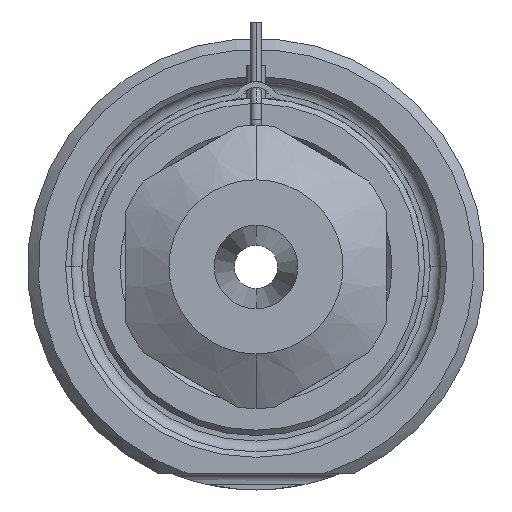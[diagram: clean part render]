
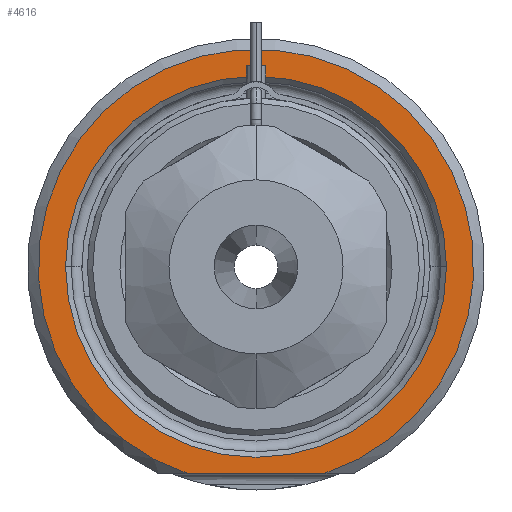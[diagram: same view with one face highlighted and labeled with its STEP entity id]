
A CAD part, front view. The second image highlights one B-rep face of the part: STEP entity #4616.
In plain terms, the highlighted planar face has unit normal (0, -1, 0).
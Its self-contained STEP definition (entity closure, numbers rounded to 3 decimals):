
#1586=CARTESIAN_POINT('',(0.,0.,0.));
#1587=DIRECTION('',(0.,-1.,0.));
#1588=DIRECTION('',(0.312,0.,-0.95));
#1589=AXIS2_PLACEMENT_3D('',#1586,#1587,#1588);
#1610=DIRECTION('',(1.,0.,0.));
#1611=VECTOR('',#1610,12.49);
#1612=CARTESIAN_POINT('',(-6.245,0.,-19.));
#1613=LINE('',#1612,#1611);
#1614=CARTESIAN_POINT('',(0.,0.,0.));
#1615=DIRECTION('',(0.,1.,0.));
#1616=DIRECTION('',(-1.,0.,0.));
#1617=AXIS2_PLACEMENT_3D('',#1614,#1615,#1616);
#1619=CARTESIAN_POINT('',(0.,0.,0.));
#1620=DIRECTION('',(0.,1.,0.));
#1621=DIRECTION('',(1.,0.,0.));
#1622=AXIS2_PLACEMENT_3D('',#1619,#1620,#1621);
#2498=CARTESIAN_POINT('',(-17.5,0.,0.));
#2499=CARTESIAN_POINT('',(17.5,0.,0.));
#2500=VERTEX_POINT('',#2498);
#2501=VERTEX_POINT('',#2499);
#2542=CARTESIAN_POINT('',(-6.245,0.,-19.));
#2543=CARTESIAN_POINT('',(6.245,0.,-19.));
#2544=VERTEX_POINT('',#2542);
#2545=VERTEX_POINT('',#2543);
#4601=CARTESIAN_POINT('',(0.,0.,0.));
#4602=DIRECTION('',(0.,-1.,0.));
#4603=DIRECTION('',(1.,0.,0.));
#4604=AXIS2_PLACEMENT_3D('',#4601,#4602,#4603);
#4605=PLANE('',#4604);
#4606=ORIENTED_EDGE('',*,*,#4533,.F.);
#4607=ORIENTED_EDGE('',*,*,#4593,.F.);
#4608=EDGE_LOOP('',(#4606,#4607));
#4609=FACE_OUTER_BOUND('',#4608,.F.);
#4611=ORIENTED_EDGE('',*,*,#4610,.F.);
#4613=ORIENTED_EDGE('',*,*,#4612,.F.);
#4614=EDGE_LOOP('',(#4611,#4613));
#4615=FACE_BOUND('',#4614,.F.);
#4616=ADVANCED_FACE('',(#4609,#4615),#4605,.T.);
#1590=CIRCLE('',#1589,20.);
#1618=CIRCLE('',#1617,17.5);
#1623=CIRCLE('',#1622,17.5);
#4533=EDGE_CURVE('',#2544,#2545,#1613,.T.);
#4593=EDGE_CURVE('',#2545,#2544,#1590,.T.);
#4610=EDGE_CURVE('',#2500,#2501,#1618,.T.);
#4612=EDGE_CURVE('',#2501,#2500,#1623,.T.);
